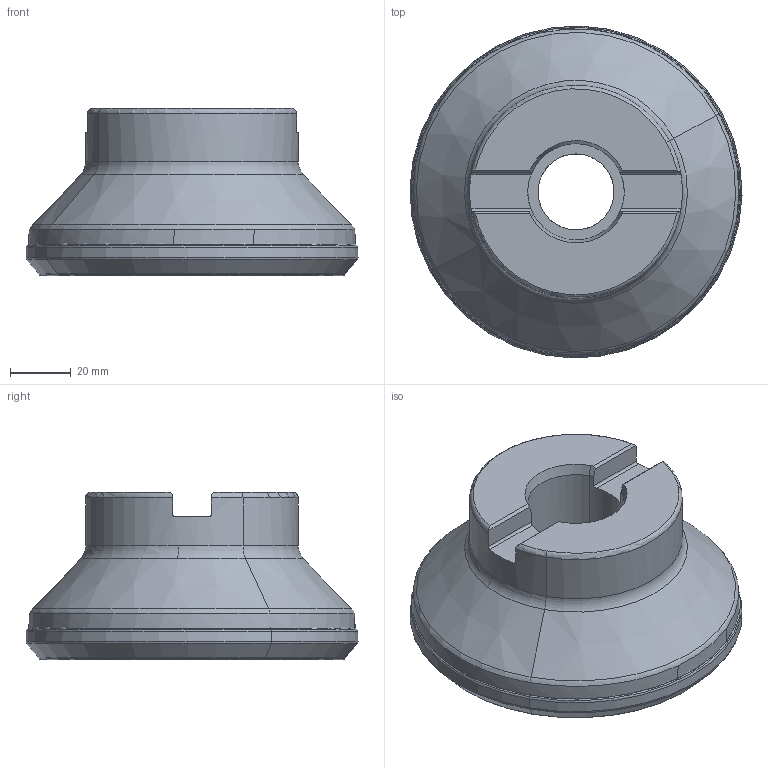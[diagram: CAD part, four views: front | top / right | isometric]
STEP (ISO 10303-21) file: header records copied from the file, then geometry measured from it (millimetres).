
FILE_DESCRIPTION(('CATIA V5 STEP','CAx-IF Rec.Pracs.--- Model Styling and Organization---1.2---2011-12-15'),'2;1');
FILE_NAME('N:\data\isr\design\special1\users\NATALY_B\Tal\NPA\3106858\IQ845 FSYD100-10-3175-R07-L.stp','2016-06-05T14:27:09+00:00',('none'),('none'),'CATIA Version 5 Release 21 SP 5 (IN-10)','CATIA V5 STEP AP214','none');
FILE_SCHEMA(('AUTOMOTIVE_DESIGN { 1 0 10303 214 1 1 1 1 }'));
Length unit declared in the file: millimetre
Products named in the file (1): IQ845 FSYD100-10-3175-R07
Bounding box: 109.21 x 109.21 x 55 mm (x, y, z)
Volume: 287922.2 mm3; surface area: 47517.3 mm2
Topology: 2 solids, 2 shells, 156 faces, 369 edges, 218 vertices
Faces by surface type: revolution 96, plane 16, cone 16, torus 16, cylinder 12
Entity records: 5697 total; most frequent: CARTESIAN_POINT 2294, ORIENTED_EDGE 702, DIRECTION 449, EDGE_CURVE 351, AXIS2_PLACEMENT_3D 221, B_SPLINE_CURVE_WITH_KNOTS 216, VERTEX_POINT 199, CIRCLE 168
